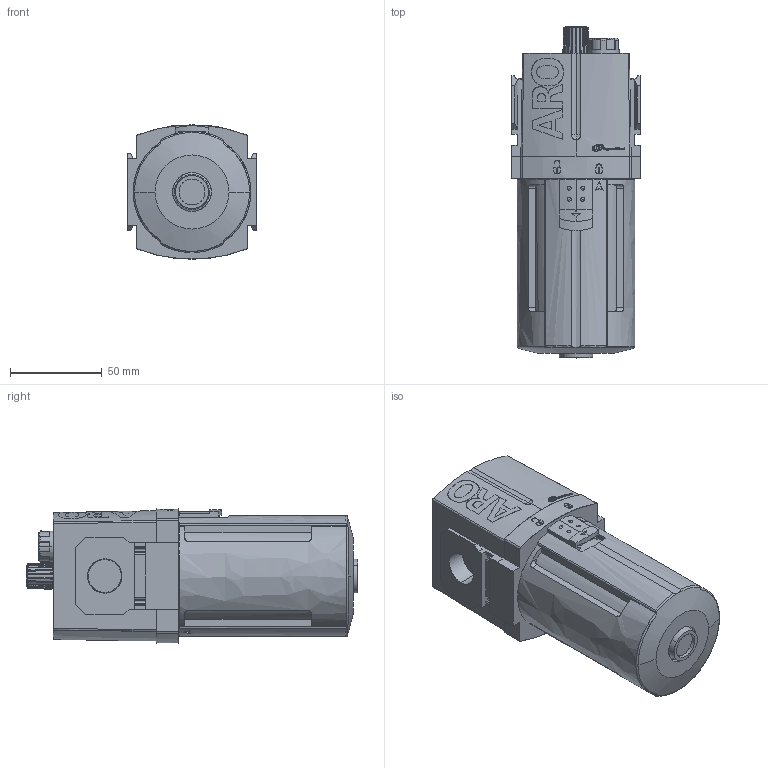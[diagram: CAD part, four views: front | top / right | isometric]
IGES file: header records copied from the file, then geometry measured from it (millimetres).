
Global section: file name: C:\Documents and Settings\szeedyk\Desktop\L363X1-X0X_01.igs; native system: NX V4.0; preprocessor: UGS NX IGES V4.0; date: 20090205.135016; units: inch
Bounding box: 70 x 180.5 x 73 mm (x, y, z)
Surface area: 85919.5 mm2 (no closed solid volume)
Topology: 0 solids, 0 shells, 1141 faces, 6850 edges, 6846 vertices
Faces by surface type: bspline 1141
